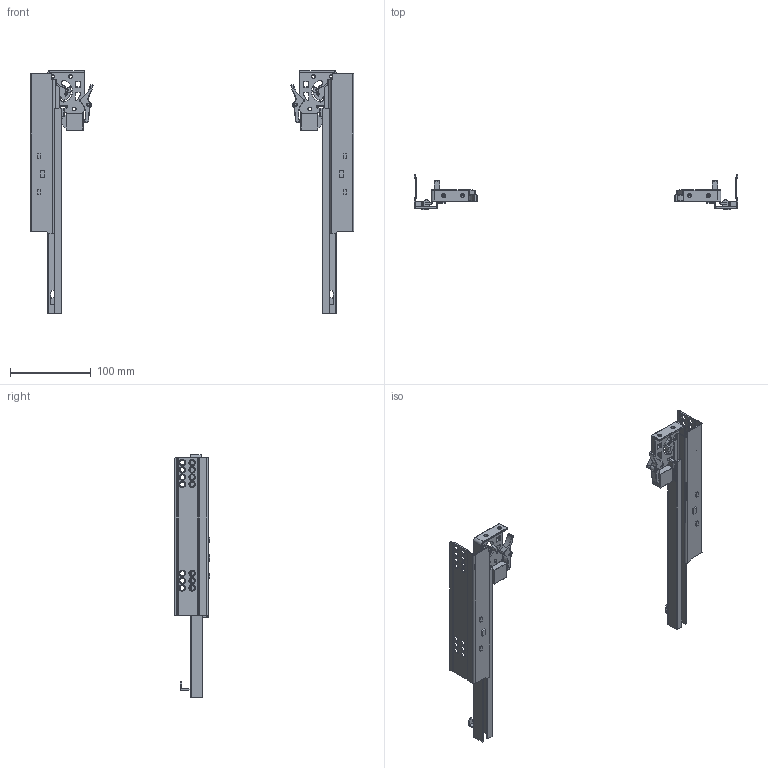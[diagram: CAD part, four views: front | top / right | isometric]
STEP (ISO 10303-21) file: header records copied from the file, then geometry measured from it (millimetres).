
FILE_DESCRIPTION(/* description */ (''),/* implementation_level */ '2;1');
FILE_NAME(/* name */ 'D:\$Workingspace\Designs\Katalog\Cadsoft\GTV Prowadnice\Prowadnice GTV_bryły 3D\PB-GCHX-300.stp',/* time_stamp */ '2016-11-21T15:25:42+01:00',/* author */ ('tomaszw'),/* organization */ (''),/* preprocessor_version */ 'ST-DEVELOPER v16.1',/* originating_system */ 'Autodesk Inventor 2016',/* authorisation */ '');
FILE_SCHEMA (('AUTOMOTIVE_DESIGN { 1 0 10303 214 3 1 1 }'));
Length unit declared in the file: millimetre
Products named in the file (7): PB-GCHX-CL-300; PB-GCHX-CR-300; PB-GCHX-DL-300; PB-GCHX-DR-300; PB-GCHX-SL; PB-GCHX-SR; PB-GCHX
Assembly tree (6 placements, depth 2):
  PB-GCHX
    PB-GCHX-CL-300
    PB-GCHX-CR-300
    PB-GCHX-DL-300
    PB-GCHX-DR-300
    PB-GCHX-SL
    PB-GCHX-SR
Bounding box: 400 x 43.8 x 300.5 mm (x, y, z)
Volume: 169251.5 mm3; surface area: 166978.1 mm2
Topology: 16 solids, 16 shells, 1184 faces, 2812 edges, 1662 vertices
Faces by surface type: cylinder 440, plane 342, torus 222, sphere 82, bspline 70, cone 28
Full cylindrical faces by diameter (mm): 2 x2, 3 x2, 4 x6, 4.5 x6, 5 x2, 6 x28, 7.889 x2, 9 x2
Entity records: 40484 total; most frequent: CARTESIAN_POINT 12017, DIRECTION 6006, ORIENTED_EDGE 5344, EDGE_CURVE 2670, AXIS2_PLACEMENT_3D 2367, VERTEX_POINT 1622, EDGE_LOOP 1402, LINE 1272
